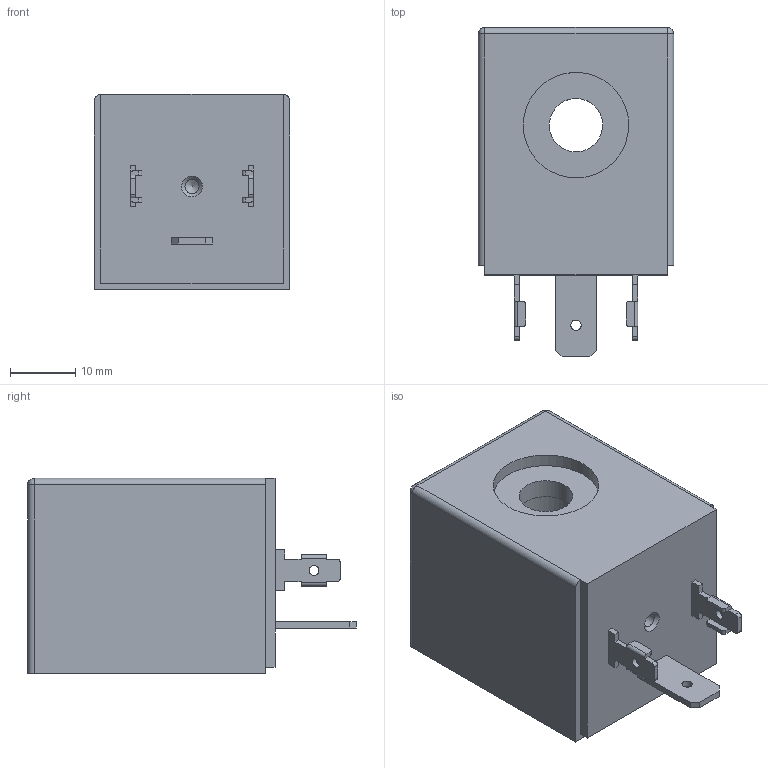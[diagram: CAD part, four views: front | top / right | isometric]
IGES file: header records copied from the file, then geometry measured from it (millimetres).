
Global section: file name: MC##; native system: Autodesk Inventor 2014; preprocessor: unknown; organization: Pneumax S.p.A.; date: 20161004.162341; units: millimetre
Bounding box: 30 x 50.5 x 30 mm (x, y, z)
Volume: 31553.5 mm3; surface area: 7607.8 mm2
Topology: 1 solids, 1 shells, 93 faces, 253 edges, 165 vertices
Faces by surface type: bspline 93
